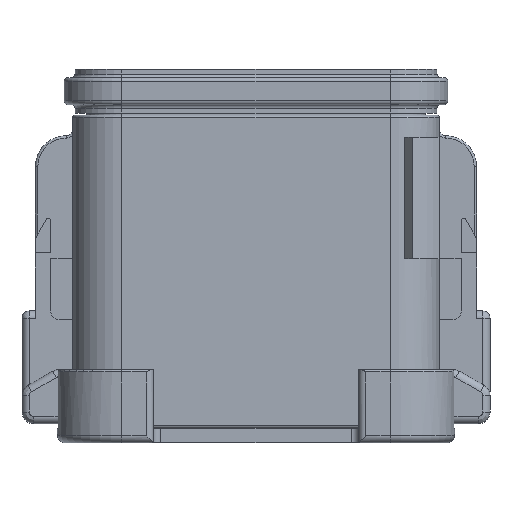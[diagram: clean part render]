
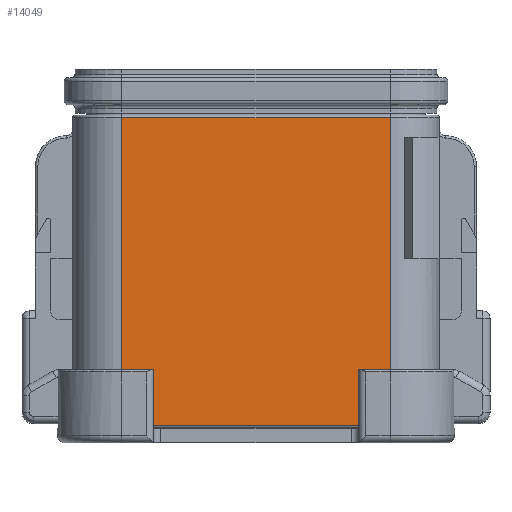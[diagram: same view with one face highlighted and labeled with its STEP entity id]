
A CAD part, front view. The second image highlights one B-rep face of the part: STEP entity #14049.
In plain terms, the highlighted planar face has unit normal (0, -1, 0).
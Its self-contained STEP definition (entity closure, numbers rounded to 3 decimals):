
#2357=DIRECTION('',(1.,0.,0.));
#2358=VECTOR('',#2357,2.731);
#2359=CARTESIAN_POINT('',(-11.621,-9.093,-25.857));
#2360=LINE('',#2359,#2358);
#2361=DIRECTION('',(0.,0.,-1.));
#2362=VECTOR('',#2361,21.844);
#2363=CARTESIAN_POINT('',(-11.621,-9.093,-4.013));
#2364=LINE('',#2363,#2362);
#2365=DIRECTION('',(1.,0.,0.));
#2366=VECTOR('',#2365,23.241);
#2367=CARTESIAN_POINT('',(-11.621,-9.093,-4.013));
#2368=LINE('',#2367,#2366);
#2369=DIRECTION('',(1.,0.,0.));
#2370=VECTOR('',#2369,2.731);
#2371=CARTESIAN_POINT('',(8.89,-9.093,-25.857));
#2372=LINE('',#2371,#2370);
#2373=DIRECTION('',(0.,0.,1.));
#2374=VECTOR('',#2373,4.826);
#2375=CARTESIAN_POINT('',(8.89,-9.093,-30.683));
#2376=LINE('',#2375,#2374);
#2377=DIRECTION('',(-1.,0.,0.));
#2378=VECTOR('',#2377,17.78);
#2379=CARTESIAN_POINT('',(8.89,-9.093,-30.683));
#2380=LINE('',#2379,#2378);
#2381=DIRECTION('',(0.,0.,1.));
#2382=VECTOR('',#2381,4.826);
#2383=CARTESIAN_POINT('',(-8.89,-9.093,-30.683));
#2384=LINE('',#2383,#2382);
#6468=DIRECTION('',(0.,0.,-1.));
#6469=VECTOR('',#6468,21.844);
#6470=CARTESIAN_POINT('',(11.621,-9.093,-4.013));
#6471=LINE('',#6470,#6469);
#9501=CARTESIAN_POINT('',(11.621,-9.093,-4.013));
#9503=VERTEX_POINT('',#9501);
#9527=CARTESIAN_POINT('',(-11.621,-9.093,-4.013));
#9528=VERTEX_POINT('',#9527);
#10752=CARTESIAN_POINT('',(-11.621,-9.093,-25.857));
#10754=VERTEX_POINT('',#10752);
#10755=CARTESIAN_POINT('',(-8.89,-9.093,-25.857));
#10756=VERTEX_POINT('',#10755);
#10757=CARTESIAN_POINT('',(8.89,-9.093,-25.857));
#10758=CARTESIAN_POINT('',(11.621,-9.093,-25.857));
#10759=VERTEX_POINT('',#10757);
#10760=VERTEX_POINT('',#10758);
#10761=CARTESIAN_POINT('',(-8.89,-9.093,-30.683));
#10762=VERTEX_POINT('',#10761);
#10783=CARTESIAN_POINT('',(8.89,-9.093,-30.683));
#10784=VERTEX_POINT('',#10783);
#14027=CARTESIAN_POINT('',(-11.621,-9.093,-3.81));
#14028=DIRECTION('',(0.,-1.,0.));
#14029=DIRECTION('',(1.,0.,0.));
#14030=AXIS2_PLACEMENT_3D('',#14027,#14028,#14029);
#14031=PLANE('',#14030);
#14033=ORIENTED_EDGE('',*,*,#14032,.F.);
#14035=ORIENTED_EDGE('',*,*,#14034,.F.);
#14036=ORIENTED_EDGE('',*,*,#14021,.T.);
#14038=ORIENTED_EDGE('',*,*,#14037,.T.);
#14040=ORIENTED_EDGE('',*,*,#14039,.F.);
#14042=ORIENTED_EDGE('',*,*,#14041,.F.);
#14044=ORIENTED_EDGE('',*,*,#14043,.T.);
#14046=ORIENTED_EDGE('',*,*,#14045,.T.);
#14047=EDGE_LOOP('',(#14033,#14035,#14036,#14038,#14040,#14042,#14044,#14046));
#14048=FACE_OUTER_BOUND('',#14047,.F.);
#14049=ADVANCED_FACE('',(#14048),#14031,.T.);
#14021=EDGE_CURVE('',#9528,#9503,#2368,.T.);
#14032=EDGE_CURVE('',#10754,#10756,#2360,.T.);
#14034=EDGE_CURVE('',#9528,#10754,#2364,.T.);
#14037=EDGE_CURVE('',#9503,#10760,#6471,.T.);
#14039=EDGE_CURVE('',#10759,#10760,#2372,.T.);
#14041=EDGE_CURVE('',#10784,#10759,#2376,.T.);
#14043=EDGE_CURVE('',#10784,#10762,#2380,.T.);
#14045=EDGE_CURVE('',#10762,#10756,#2384,.T.);
